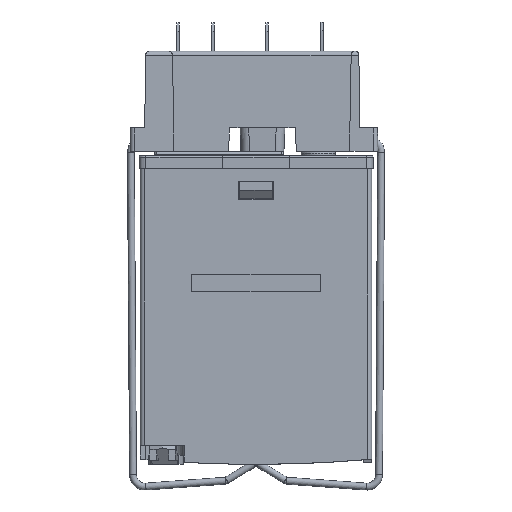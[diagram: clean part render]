
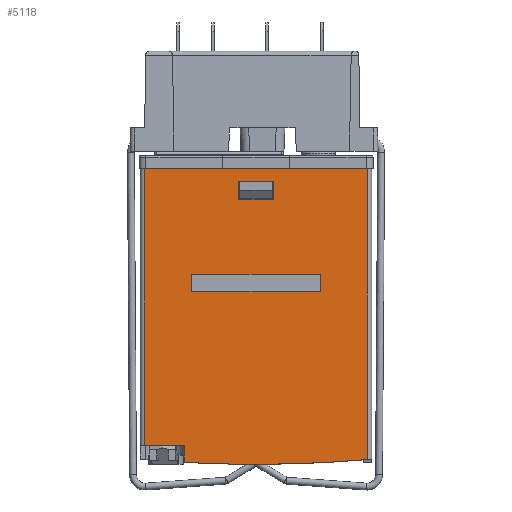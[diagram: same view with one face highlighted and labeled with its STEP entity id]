
A CAD part, left-side view. The second image highlights one B-rep face of the part: STEP entity #5118.
In plain terms, the highlighted planar face has unit normal (-1, 0, 0) as drawn and (0, 1, 0) by its records, which use the part's own axes.
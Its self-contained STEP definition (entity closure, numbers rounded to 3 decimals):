
#1037=FACE_BOUND('',#14358,.T.);
#1038=FACE_BOUND('',#14359,.T.);
#1039=FACE_BOUND('',#14360,.T.);
#2891=CIRCLE('',#64171,152.175);
#2895=CIRCLE('',#64177,152.175);
#5118=ADVANCED_FACE('',(#1037,#1038,#1039),#8365,.F.);
#8365=PLANE('',#64234);
#14358=EDGE_LOOP('',(#22218,#22219,#22220,#22221));
#14359=EDGE_LOOP('',(#22222,#22223,#22224,#22225,#22226,#22227,#22228));
#14360=EDGE_LOOP('',(#22229,#22230,#22231,#22232));
#22218=ORIENTED_EDGE('',*,*,#43222,.F.);
#22219=ORIENTED_EDGE('',*,*,#43223,.T.);
#22220=ORIENTED_EDGE('',*,*,#43224,.F.);
#22221=ORIENTED_EDGE('',*,*,#43225,.F.);
#22222=ORIENTED_EDGE('',*,*,#43226,.T.);
#22223=ORIENTED_EDGE('',*,*,#42994,.T.);
#22224=ORIENTED_EDGE('',*,*,#42984,.T.);
#22225=ORIENTED_EDGE('',*,*,#43227,.T.);
#22226=ORIENTED_EDGE('',*,*,#43228,.F.);
#22227=ORIENTED_EDGE('',*,*,#43229,.T.);
#22228=ORIENTED_EDGE('',*,*,#43065,.F.);
#22229=ORIENTED_EDGE('',*,*,#43230,.F.);
#22230=ORIENTED_EDGE('',*,*,#43231,.F.);
#22231=ORIENTED_EDGE('',*,*,#43232,.F.);
#22232=ORIENTED_EDGE('',*,*,#43233,.F.);
#36433=VERTEX_POINT('',#91077);
#36434=VERTEX_POINT('',#91078);
#36443=VERTEX_POINT('',#91129);
#36510=VERTEX_POINT('',#91313);
#36511=VERTEX_POINT('',#91315);
#36627=VERTEX_POINT('',#91611);
#36628=VERTEX_POINT('',#91612);
#36629=VERTEX_POINT('',#91614);
#36630=VERTEX_POINT('',#91616);
#36631=VERTEX_POINT('',#91620);
#36632=VERTEX_POINT('',#91622);
#36633=VERTEX_POINT('',#91625);
#36634=VERTEX_POINT('',#91626);
#36635=VERTEX_POINT('',#91628);
#36636=VERTEX_POINT('',#91630);
#42984=EDGE_CURVE('',#36433,#36434,#2891,.T.);
#42994=EDGE_CURVE('',#36443,#36433,#2895,.T.);
#43065=EDGE_CURVE('',#36510,#36511,#51412,.T.);
#43222=EDGE_CURVE('',#36627,#36628,#51552,.T.);
#43223=EDGE_CURVE('',#36627,#36629,#51553,.T.);
#43224=EDGE_CURVE('',#36630,#36629,#51554,.T.);
#43225=EDGE_CURVE('',#36628,#36630,#51555,.T.);
#43226=EDGE_CURVE('',#36510,#36443,#51556,.T.);
#43227=EDGE_CURVE('',#36434,#36631,#51557,.T.);
#43228=EDGE_CURVE('',#36632,#36631,#51558,.T.);
#43229=EDGE_CURVE('',#36632,#36511,#51559,.T.);
#43230=EDGE_CURVE('',#36633,#36634,#51560,.T.);
#43231=EDGE_CURVE('',#36635,#36633,#51561,.T.);
#43232=EDGE_CURVE('',#36636,#36635,#51562,.T.);
#43233=EDGE_CURVE('',#36634,#36636,#51563,.T.);
#51412=LINE('',#91314,#58197);
#51552=LINE('',#91610,#58337);
#51553=LINE('',#91613,#58338);
#51554=LINE('',#91615,#58339);
#51555=LINE('',#91617,#58340);
#51556=LINE('',#91618,#58341);
#51557=LINE('',#91619,#58342);
#51558=LINE('',#91621,#58343);
#51559=LINE('',#91623,#58344);
#51560=LINE('',#91624,#58345);
#51561=LINE('',#91627,#58346);
#51562=LINE('',#91629,#58347);
#51563=LINE('',#91631,#58348);
#58197=VECTOR('',#72337,1.);
#58337=VECTOR('',#72557,1.);
#58338=VECTOR('',#72558,1.);
#58339=VECTOR('',#72559,1.);
#58340=VECTOR('',#72560,1.);
#58341=VECTOR('',#72561,1.);
#58342=VECTOR('',#72562,1.);
#58343=VECTOR('',#72563,1.);
#58344=VECTOR('',#72564,1.);
#58345=VECTOR('',#72565,1.);
#58346=VECTOR('',#72566,1.);
#58347=VECTOR('',#72567,1.);
#58348=VECTOR('',#72568,1.);
#64171=AXIS2_PLACEMENT_3D('',#91076,#72234,#72235);
#64177=AXIS2_PLACEMENT_3D('',#91128,#72250,#72251);
#64234=AXIS2_PLACEMENT_3D('',#91632,#72569,#72570);
#72234=DIRECTION('',(0.,1.,0.));
#72235=DIRECTION('',(0.,0.,-1.));
#72250=DIRECTION('',(0.,1.,0.));
#72251=DIRECTION('',(0.,0.,-1.));
#72337=DIRECTION('',(1.,0.,0.));
#72557=DIRECTION('',(0.,0.,1.));
#72558=DIRECTION('',(1.,0.,0.));
#72559=DIRECTION('',(0.,0.,-1.));
#72560=DIRECTION('',(1.,0.,0.));
#72561=DIRECTION('',(0.,0.,-1.));
#72562=DIRECTION('',(0.,0.,1.));
#72563=DIRECTION('',(-1.,0.,0.));
#72564=DIRECTION('',(0.,0.,-1.));
#72565=DIRECTION('',(1.,0.,0.));
#72566=DIRECTION('',(0.,0.,1.));
#72567=DIRECTION('',(-1.,0.,0.));
#72568=DIRECTION('',(0.,0.,-1.));
#72569=DIRECTION('',(0.,-1.,0.));
#72570=DIRECTION('',(0.,0.,1.));
#91076=CARTESIAN_POINT('',(0.974,11.595,146.475));
#91077=CARTESIAN_POINT('',(0.974,11.595,-5.7));
#91078=CARTESIAN_POINT('',(-12.026,11.595,-5.144));
#91128=CARTESIAN_POINT('',(0.974,11.595,146.475));
#91129=CARTESIAN_POINT('',(9.374,11.595,-5.468));
#91313=CARTESIAN_POINT('',(9.374,11.595,-3.5));
#91314=CARTESIAN_POINT('',(14.474,11.595,-3.5));
#91315=CARTESIAN_POINT('',(13.974,11.595,-3.5));
#91610=CARTESIAN_POINT('',(-1.026,11.595,24.9));
#91611=CARTESIAN_POINT('',(-1.026,11.595,25.2));
#91612=CARTESIAN_POINT('',(-1.026,11.595,27.3));
#91613=CARTESIAN_POINT('',(-1.026,11.595,25.2));
#91614=CARTESIAN_POINT('',(2.974,11.595,25.2));
#91615=CARTESIAN_POINT('',(2.974,11.595,24.9));
#91616=CARTESIAN_POINT('',(2.974,11.595,27.3));
#91617=CARTESIAN_POINT('',(-1.026,11.595,27.3));
#91618=CARTESIAN_POINT('',(9.374,11.595,-3.5));
#91619=CARTESIAN_POINT('',(-12.026,11.595,-6.));
#91620=CARTESIAN_POINT('',(-12.026,11.595,28.8));
#91621=CARTESIAN_POINT('',(-12.026,11.595,28.8));
#91622=CARTESIAN_POINT('',(13.974,11.595,28.8));
#91623=CARTESIAN_POINT('',(13.974,11.595,-6.));
#91624=CARTESIAN_POINT('',(-6.526,11.595,16.5));
#91625=CARTESIAN_POINT('',(-6.526,11.595,16.5));
#91626=CARTESIAN_POINT('',(8.474,11.595,16.5));
#91627=CARTESIAN_POINT('',(-6.526,11.595,14.5));
#91628=CARTESIAN_POINT('',(-6.526,11.595,14.5));
#91629=CARTESIAN_POINT('',(-6.526,11.595,14.5));
#91630=CARTESIAN_POINT('',(8.474,11.595,14.5));
#91631=CARTESIAN_POINT('',(8.474,11.595,14.5));
#91632=CARTESIAN_POINT('',(-12.526,11.595,-6.));
